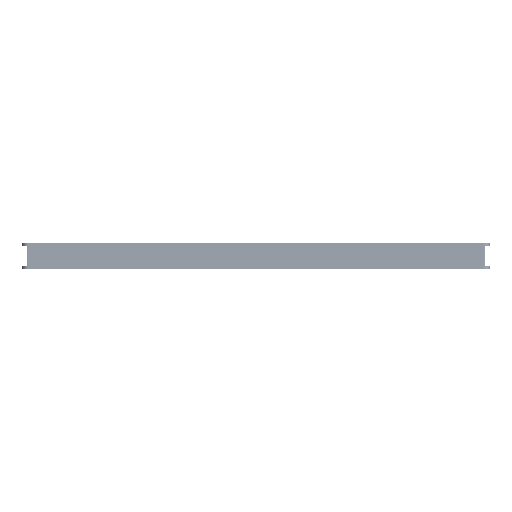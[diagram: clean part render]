
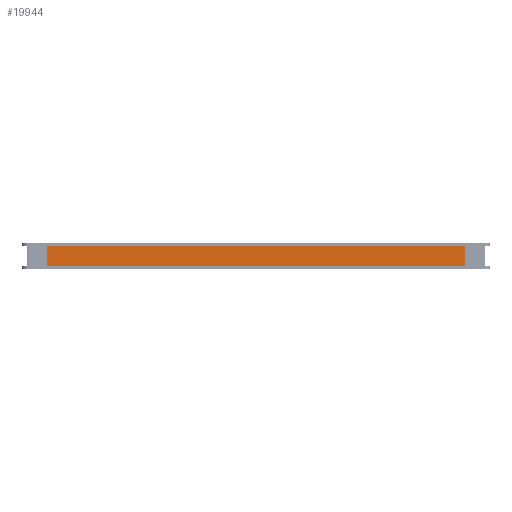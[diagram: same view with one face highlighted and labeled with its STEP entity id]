
A CAD part, left-side view. The second image highlights one B-rep face of the part: STEP entity #19944.
In plain terms, the highlighted planar face has unit normal (-1, 0, 0).
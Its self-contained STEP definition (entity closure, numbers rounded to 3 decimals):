
#8602 = DIRECTION ( 'NONE',  ( 0., 0., 1. ) ) ;
#8943 = CARTESIAN_POINT ( 'NONE',  ( -575.983, -398.14, -92.045 ) ) ;
#14516 = DIRECTION ( 'NONE',  ( 1., 0., 0. ) ) ;
#19750 = DIRECTION ( 'NONE',  ( 0., -1., 0. ) ) ;
#19944 = ADVANCED_FACE ( 'NONE', ( #83894 ), #29073, .F. ) ;
#20624 = CARTESIAN_POINT ( 'NONE',  ( -575.983, -398.14, -131.045 ) ) ;
#26950 = VECTOR ( 'NONE', #19750, 1000. ) ;
#27164 = ORIENTED_EDGE ( 'NONE', *, *, #85475, .T. ) ;
#28875 = EDGE_CURVE ( 'NONE', #89033, #44004, #40942, .T. ) ;
#29073 = PLANE ( 'NONE',  #36860 ) ;
#29282 = EDGE_CURVE ( 'NONE', #44004, #51972, #51745, .T. ) ;
#32949 = LINE ( 'NONE', #8943, #44872 ) ;
#34388 = ORIENTED_EDGE ( 'NONE', *, *, #29282, .T. ) ;
#35638 = DIRECTION ( 'NONE',  ( 0., -1., 0. ) ) ;
#36716 = DIRECTION ( 'NONE',  ( 0., 1., 0. ) ) ;
#36860 = AXIS2_PLACEMENT_3D ( 'NONE', #84486, #14516, #35638 ) ;
#40942 = LINE ( 'NONE', #20624, #26950 ) ;
#44004 = VERTEX_POINT ( 'NONE', #79387 ) ;
#44872 = VECTOR ( 'NONE', #36716, 1000. ) ;
#45318 = CARTESIAN_POINT ( 'NONE',  ( -575.983, -398.14, -92.045 ) ) ;
#46536 = DIRECTION ( 'NONE',  ( 0., 0., -1. ) ) ;
#50238 = CARTESIAN_POINT ( 'NONE',  ( -575.983, 467.86, -131.045 ) ) ;
#51745 = LINE ( 'NONE', #57288, #72374 ) ;
#51972 = VERTEX_POINT ( 'NONE', #45318 ) ;
#55230 = VECTOR ( 'NONE', #46536, 1000. ) ;
#57288 = CARTESIAN_POINT ( 'NONE',  ( -575.983, -398.14, -92.045 ) ) ;
#60350 = CARTESIAN_POINT ( 'NONE',  ( -575.983, 467.86, -92.045 ) ) ;
#60464 = EDGE_LOOP ( 'NONE', ( #27164, #79408, #34388, #64953 ) ) ;
#64953 = ORIENTED_EDGE ( 'NONE', *, *, #77969, .T. ) ;
#69341 = LINE ( 'NONE', #80487, #55230 ) ;
#72374 = VECTOR ( 'NONE', #8602, 1000. ) ;
#74592 = VERTEX_POINT ( 'NONE', #60350 ) ;
#77969 = EDGE_CURVE ( 'NONE', #51972, #74592, #32949, .T. ) ;
#79387 = CARTESIAN_POINT ( 'NONE',  ( -575.983, -398.14, -131.045 ) ) ;
#79408 = ORIENTED_EDGE ( 'NONE', *, *, #28875, .T. ) ;
#80487 = CARTESIAN_POINT ( 'NONE',  ( -575.983, 467.86, -92.045 ) ) ;
#83894 = FACE_OUTER_BOUND ( 'NONE', #60464, .T. ) ;
#84486 = CARTESIAN_POINT ( 'NONE',  ( -575.983, 34.86, -111.545 ) ) ;
#85475 = EDGE_CURVE ( 'NONE', #74592, #89033, #69341, .T. ) ;
#89033 = VERTEX_POINT ( 'NONE', #50238 ) ;
